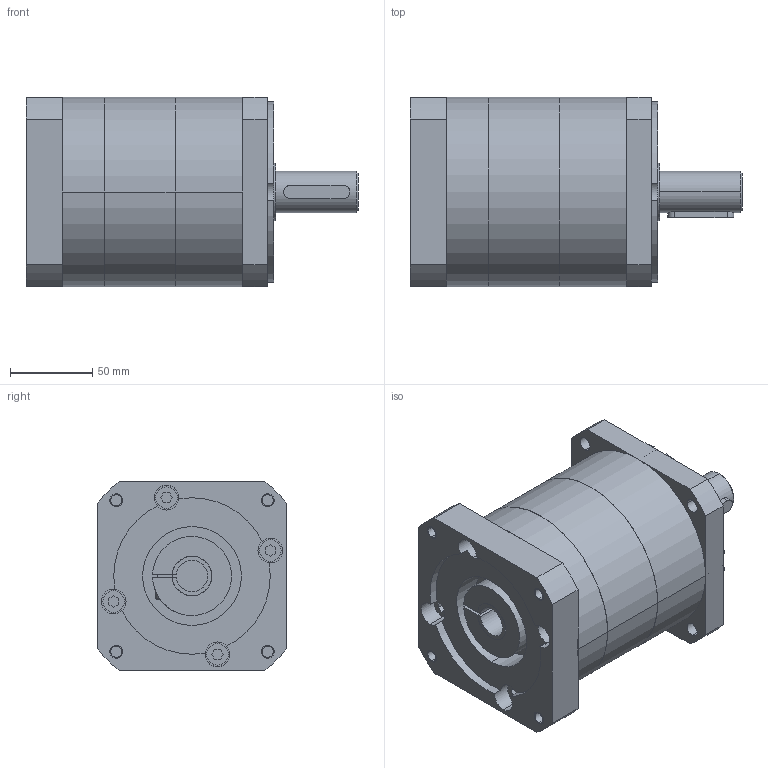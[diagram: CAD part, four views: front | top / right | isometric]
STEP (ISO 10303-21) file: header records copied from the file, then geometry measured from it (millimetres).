
FILE_DESCRIPTION((''),'2;1');
FILE_NAME('MB_PLE_MASTER','2019-01-07T',('agw'),(''),'CREO PARAMETRIC BY PTC INC, 2015290','CREO PARAMETRIC BY PTC INC, 2015290','');
FILE_SCHEMA(('AUTOMOTIVE_DESIGN { 1 0 10303 214 1 1 1 1 }'));
Length unit declared in the file: millimetre
Products named in the file (1): MB_PLE_MASTER
Bounding box: 201.5 x 115 x 115 mm (x, y, z)
Volume: 1556166.9 mm3; surface area: 141032.1 mm2
Topology: 1 solids, 11 shells, 320 faces, 754 edges, 495 vertices
Faces by surface type: plane 179, cylinder 129, torus 6, cone 6
Entity records: 9877 total; most frequent: DIRECTION 1690, CARTESIAN_POINT 1632, ORIENTED_EDGE 1484, EDGE_CURVE 752, AXIS2_PLACEMENT_3D 621, VERTEX_POINT 495, VECTOR 448, LINE 448
